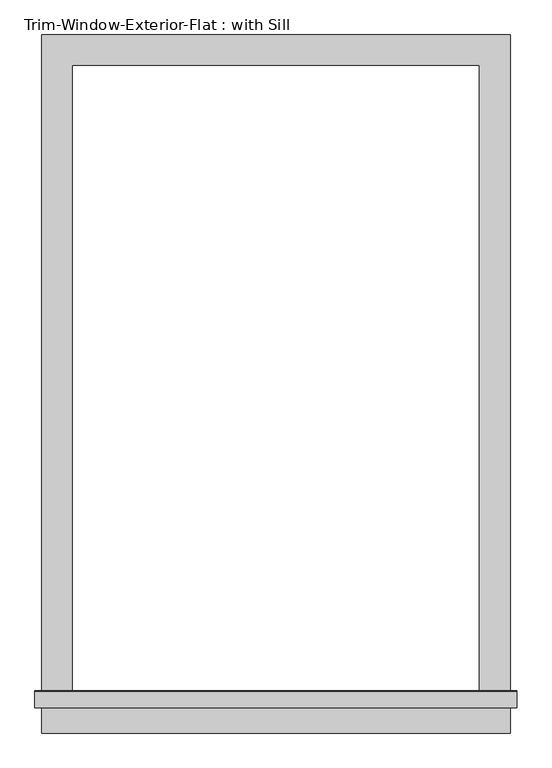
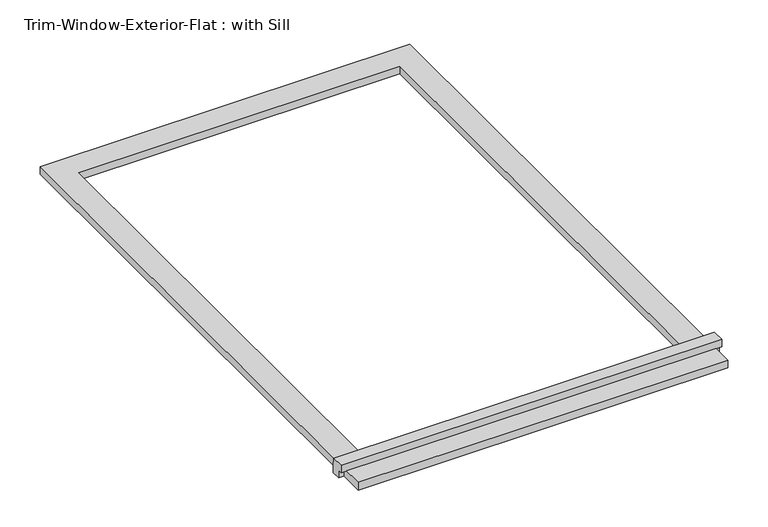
"""IFC4 building model written with IfcOpenShell, lengths in millimetres: proxy geometry, Trim-Window-Exterior-Flat : with Sill."""

from ifc_helpers import new_model, si_unit, frame, origin, origin_with_axes, place, context, project, spatial, polyline, outline, extrude, source, transform, mapped, element, save


def trim_window_exterior_flat_with_sill_6cd3ad68(model_context):
    return source(origin(), model_context, "Body", "SweptSolid", [
        extrude(outline(polyline([(438.15, -1190.5823709), (438.15, -1247.7323709), (-438.15, -1247.7323709), (-438.15, -1190.5823709), (438.15, -1190.5823709)])), origin_with_axes(), (0.0, 0.0, 1.0), 19.05),
        extrude(outline(polyline([(-1200.15, 38.1), (-1170.8580645, 38.1), (-1168.4, 19.05), (-1168.4, 0.0), (-1190.5823709, 0.0), (-1190.5823709, 19.05), (-1200.15, 19.05), (-1200.15, 38.1)])), frame((-450.85, 0.0, 0.0), z_axis=(1.0, 0.0, 0.0), x_axis=(0.0, 1.0, 0.0)), (0.0, 0.0, 1.0), 901.7),
        extrude(outline(polyline([(-438.15, 57.15), (438.15, 57.15), (438.15, -1168.4), (381.0, -1168.4), (381.0, 0.0), (-381.0, 0.0), (-381.0, -1168.4), (-438.15, -1168.4), (-438.15, 57.15)])), origin_with_axes(), (0.0, 0.0, 1.0), 19.05),
    ])


if __name__ == "__main__":
    model = new_model("IFC4")
    model_context = context("Model", 3, world=origin())
    ifc_project = project(units=[si_unit("LENGTHUNIT", "METRE", prefix="MILLI")], contexts=[model_context])
    site = spatial("IfcSite", under=ifc_project)
    building = spatial("IfcBuilding", under=site)
    placement = place(None, origin())
    trim_window_exterior_flat_with_sill_shape = trim_window_exterior_flat_with_sill_6cd3ad68(model_context)
    element("IfcBuildingElementProxy", 1, Name="Trim-Window-Exterior-Flat : with Sill", ObjectType="Trim-Window-Exterior-Flat : with Sill", at=placement, inside=building, context=model_context, shape_type="MappedRepresentation", body=[
        mapped(trim_window_exterior_flat_with_sill_shape, transform((0.0, 0.0, 0.0), x_axis=(1.0, 0.0, 0.0), y_axis=(0.0, 1.0, 0.0), z_axis=(0.0, 0.0, 1.0))),
    ])
    save(model, "model.ifc")
